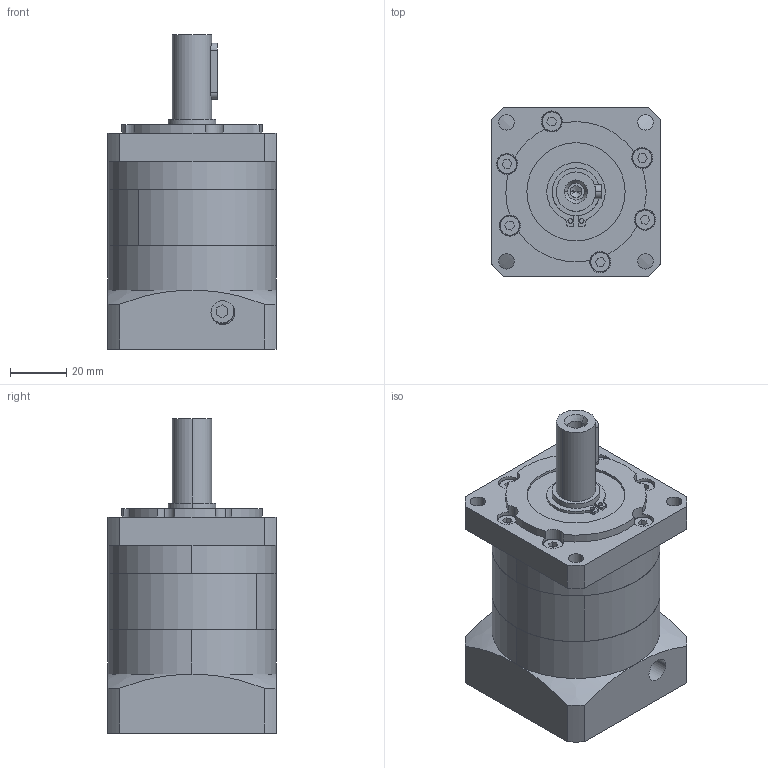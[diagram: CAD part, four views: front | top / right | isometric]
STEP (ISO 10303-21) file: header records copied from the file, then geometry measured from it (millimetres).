
FILE_DESCRIPTION (( 'STEP AP203' ), '1' );
FILE_NAME ('PLF060-L1-6.35-38.1-66.7.STEP', '2025-03-28T09:43:59', ( 'Windows User' ), ( 'P R C' ), 'SwSTEP 2.0', 'SolidWorks 2016', '' );
FILE_SCHEMA (( 'CONFIG_CONTROL_DESIGN' ));
Length unit declared in the file: millimetre
Products named in the file (9): GB／T276-94深沟球轴承61905-2RZ; 邧埴瑩 5x5x20; BJT-14-6.35; PLF060-L1-6.35-38.1-66.7; 囀鞠褒蹟佪 M5℅16; B-PLF60 κｳﾝﾈｦ_ﾒｻｼｶﾄﾚｳﾝﾈｦ; B-PLF60 奻屳唳_D1-70 D2-5.5 D3-14 D4-17 D5-50 L1-30 L2-35 L3-3 A1-60 S1-3 S2-20 S3-5 S4-18 B-5 H-16 C-M5 梓袧_2; B-PLF60 狟屳唳_D6-60 D7-14 梓袧; B-PLF60-窣諉啣-38.1-M5-66.7-LR32_1
Assembly tree (8 placements, depth 2):
  PLF060-L1-6.35-38.1-66.7
    囀鞠褒蹟佪 M5℅16
    B-PLF60 κｳﾝﾈｦ_ﾒｻｼｶﾄﾚｳﾝﾈｦ
    B-PLF60 奻屳唳_D1-70 D2-5.5 D3-14 D4-17 D5-50 L1-30 L2-35 L3-3 A1-60 S1-3 S2-20 S3-5 S4-18 B-5 H-16 C-M5 梓袧_2
    B-PLF60 狟屳唳_D6-60 D7-14 梓袧
    B-PLF60-窣諉啣-38.1-M5-66.7-LR32_1
    GB／T276-94深沟球轴承61905-2RZ
    邧埴瑩 5x5x20
    BJT-14-6.35
Bounding box: 60 x 60 x 112 mm (x, y, z)
Volume: 221817.6 mm3; surface area: 67146.7 mm2
Topology: 8 solids, 8 shells, 1172 faces, 3198 edges, 2102 vertices
Faces by surface type: plane 589, bspline 361, cylinder 182, cone 40
Entity records: 51956 total; most frequent: CARTESIAN_POINT 23545, ORIENTED_EDGE 6360, DIRECTION 4639, EDGE_CURVE 3180, VERTEX_POINT 2102, LINE 1665, VECTOR 1665, AXIS2_PLACEMENT_3D 1487
